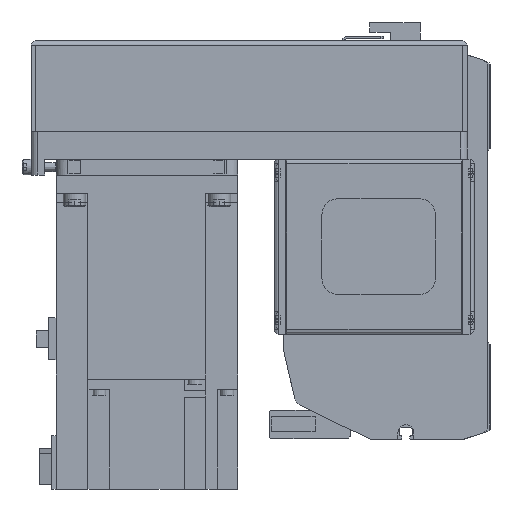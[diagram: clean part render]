
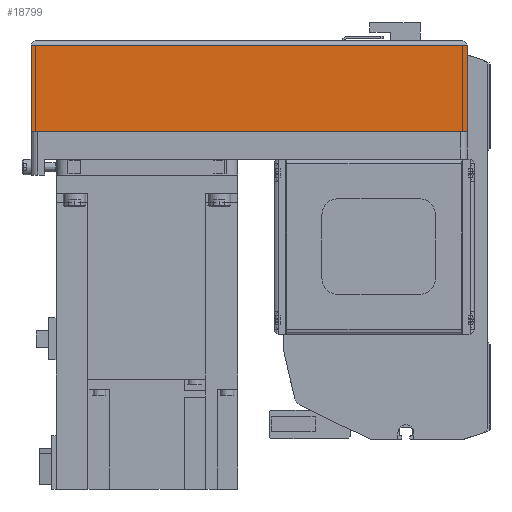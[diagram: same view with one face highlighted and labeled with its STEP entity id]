
A CAD part, left-side view. The second image highlights one B-rep face of the part: STEP entity #18799.
In plain terms, the highlighted planar face has unit normal (-1, 0, 0) as drawn and (0, 1, 0) by its records, which use the part's own axes.
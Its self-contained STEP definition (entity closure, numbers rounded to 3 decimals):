
#2916=ORIENTED_EDGE('',*,*,#7587,.F.);
#2917=ORIENTED_EDGE('',*,*,#7627,.F.);
#2918=ORIENTED_EDGE('',*,*,#7564,.T.);
#2919=ORIENTED_EDGE('',*,*,#7577,.T.);
#7564=EDGE_CURVE('',#10063,#10066,#11994,.T.);
#7577=EDGE_CURVE('',#10066,#10078,#12007,.T.);
#7587=EDGE_CURVE('',#10086,#10078,#12017,.T.);
#7627=EDGE_CURVE('',#10063,#10086,#12035,.T.);
#10063=VERTEX_POINT('',#28848);
#10066=VERTEX_POINT('',#28853);
#10078=VERTEX_POINT('',#28881);
#10086=VERTEX_POINT('',#28901);
#11994=LINE('',#28854,#13680);
#12007=LINE('',#28882,#13693);
#12017=LINE('',#28902,#13703);
#12035=LINE('',#28972,#13721);
#13680=VECTOR('',#23082,1000.);
#13693=VECTOR('',#23101,1000.);
#13703=VECTOR('',#23115,1000.);
#13721=VECTOR('',#23209,1000.);
#15223=EDGE_LOOP('',(#2916,#2917,#2918,#2919));
#16715=FACE_BOUND('',#15223,.T.);
#18040=PLANE('',#20154);
#18799=ADVANCED_FACE('',(#16715),#18040,.T.);
#20154=AXIS2_PLACEMENT_3D('',#28971,#23207,#23208);
#23082=DIRECTION('',(0.,0.,1.));
#23101=DIRECTION('',(1.,0.,0.));
#23115=DIRECTION('',(0.,0.,1.));
#23207=DIRECTION('',(0.,1.,0.));
#23208=DIRECTION('',(0.,0.,1.));
#23209=DIRECTION('',(1.,0.,0.));
#28848=CARTESIAN_POINT('',(-192.,40.,-50.));
#28853=CARTESIAN_POINT('',(-192.,40.,-12.1));
#28854=CARTESIAN_POINT('',(-192.,40.,-50.));
#28881=CARTESIAN_POINT('',(0.,40.,-12.1));
#28882=CARTESIAN_POINT('',(-192.,40.,-12.1));
#28901=CARTESIAN_POINT('',(0.,40.,-50.));
#28902=CARTESIAN_POINT('',(0.,40.,-50.));
#28971=CARTESIAN_POINT('',(-192.,40.,-50.));
#28972=CARTESIAN_POINT('',(-192.,40.,-50.));
